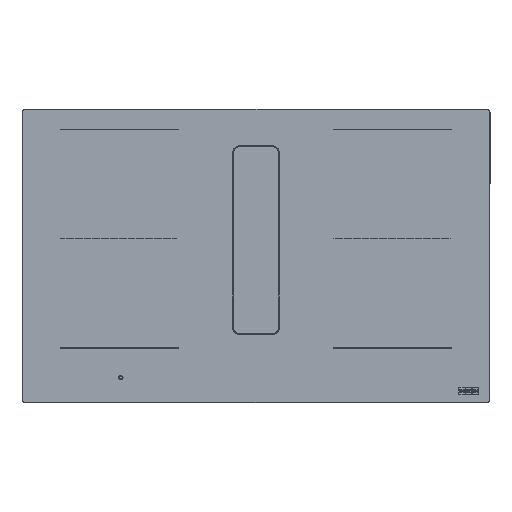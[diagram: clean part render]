
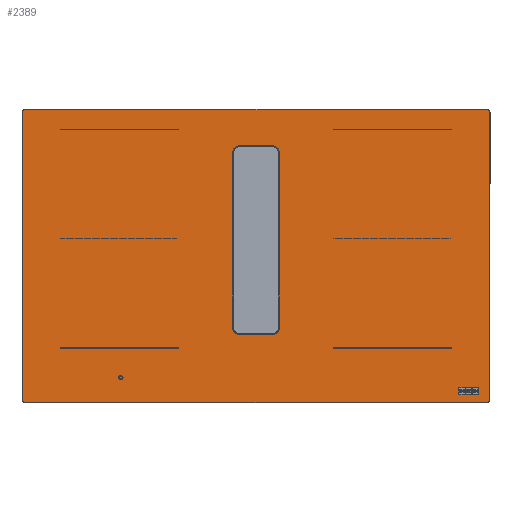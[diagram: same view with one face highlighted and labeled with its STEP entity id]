
A CAD part, top view. The second image highlights one B-rep face of the part: STEP entity #2389.
In plain terms, the highlighted planar face has unit normal (0, 0, 1) as drawn and (0, 1, 0) by its records, which use the part's own axes.
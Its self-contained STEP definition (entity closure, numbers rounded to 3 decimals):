
#2389=ADVANCED_FACE('',(#4498,#2449),#31573,.T.);
#2449=FACE_BOUND('',#6606,.T.);
#4498=FACE_OUTER_BOUND('',#6605,.T.);
#6605=EDGE_LOOP('',(#15975,#15976,#15977,#15978,#15979,#15980,#15981,#15982));
#6606=EDGE_LOOP('',(#15983,#15984,#15985,#15986,#15987,#15988,#15989,#15990));
#15975=ORIENTED_EDGE('',*,*,#20830,.T.);
#15976=ORIENTED_EDGE('',*,*,#20785,.T.);
#15977=ORIENTED_EDGE('',*,*,#20835,.T.);
#15978=ORIENTED_EDGE('',*,*,#20784,.T.);
#15979=ORIENTED_EDGE('',*,*,#20838,.T.);
#15980=ORIENTED_EDGE('',*,*,#20783,.T.);
#15981=ORIENTED_EDGE('',*,*,#20843,.T.);
#15982=ORIENTED_EDGE('',*,*,#20782,.T.);
#15983=ORIENTED_EDGE('',*,*,#20789,.T.);
#15984=ORIENTED_EDGE('',*,*,#20796,.T.);
#15985=ORIENTED_EDGE('',*,*,#20788,.T.);
#15986=ORIENTED_EDGE('',*,*,#20801,.T.);
#15987=ORIENTED_EDGE('',*,*,#20787,.T.);
#15988=ORIENTED_EDGE('',*,*,#20806,.T.);
#15989=ORIENTED_EDGE('',*,*,#20786,.T.);
#15990=ORIENTED_EDGE('',*,*,#20790,.T.);
#20782=EDGE_CURVE('',#29486,#29484,#26592,.T.);
#20783=EDGE_CURVE('',#29488,#29487,#26593,.T.);
#20784=EDGE_CURVE('',#29490,#29489,#26594,.T.);
#20785=EDGE_CURVE('',#29485,#29491,#26595,.T.);
#20786=EDGE_CURVE('',#29494,#29492,#26596,.T.);
#20787=EDGE_CURVE('',#29496,#29495,#26597,.T.);
#20788=EDGE_CURVE('',#29498,#29497,#26598,.T.);
#20789=EDGE_CURVE('',#29493,#29499,#26599,.T.);
#20790=EDGE_CURVE('',#29492,#29493,#21847,.T.);
#20796=EDGE_CURVE('',#29499,#29498,#21852,.T.);
#20801=EDGE_CURVE('',#29497,#29496,#21856,.T.);
#20806=EDGE_CURVE('',#29495,#29494,#21860,.T.);
#20830=EDGE_CURVE('',#29484,#29485,#21867,.T.);
#20835=EDGE_CURVE('',#29491,#29490,#21872,.T.);
#20838=EDGE_CURVE('',#29489,#29488,#21875,.T.);
#20843=EDGE_CURVE('',#29487,#29486,#21880,.T.);
#21847=TRIMMED_CURVE($,#22884,(#89671),(#89672),.T.,.CARTESIAN.);
#21852=TRIMMED_CURVE($,#22889,(#89688),(#89689),.T.,.CARTESIAN.);
#21856=TRIMMED_CURVE($,#22893,(#89702),(#89703),.T.,.CARTESIAN.);
#21860=TRIMMED_CURVE($,#22897,(#89716),(#89717),.T.,.CARTESIAN.);
#21867=TRIMMED_CURVE($,#22904,(#89771),(#89772),.T.,.CARTESIAN.);
#21872=TRIMMED_CURVE($,#22909,(#89786),(#89787),.T.,.CARTESIAN.);
#21875=TRIMMED_CURVE($,#22912,(#89795),(#89796),.T.,.CARTESIAN.);
#21880=TRIMMED_CURVE($,#22917,(#89810),(#89811),.T.,.CARTESIAN.);
#22884=CIRCLE('',#35226,11.628);
#22889=CIRCLE('',#35231,11.628);
#22893=CIRCLE('',#35235,11.628);
#22897=CIRCLE('',#35239,11.628);
#22904=CIRCLE('',#35246,4.372);
#22909=CIRCLE('',#35251,4.372);
#22912=CIRCLE('',#35254,4.372);
#22917=CIRCLE('',#35259,4.372);
#26592=B_SPLINE_CURVE_WITH_KNOTS('',1,(#89654,#89655),.UNSPECIFIED.,.F.,
 .F.,(2,2),(-510.,0.),.UNSPECIFIED.);
#26593=B_SPLINE_CURVE_WITH_KNOTS('',1,(#89656,#89657),.UNSPECIFIED.,.F.,
 .F.,(2,2),(-820.,0.),.UNSPECIFIED.);
#26594=B_SPLINE_CURVE_WITH_KNOTS('',1,(#89658,#89659),.UNSPECIFIED.,.F.,
 .F.,(2,2),(-510.,0.),.UNSPECIFIED.);
#26595=B_SPLINE_CURVE_WITH_KNOTS('',1,(#89660,#89661),.UNSPECIFIED.,.F.,
 .F.,(2,2),(-820.,0.),.UNSPECIFIED.);
#26596=B_SPLINE_CURVE_WITH_KNOTS('',1,(#89662,#89663),.UNSPECIFIED.,.F.,
 .F.,(2,2),(-312.,0.),.UNSPECIFIED.);
#26597=B_SPLINE_CURVE_WITH_KNOTS('',1,(#89664,#89665),.UNSPECIFIED.,.F.,
 .F.,(2,2),(-59.,0.),.UNSPECIFIED.);
#26598=B_SPLINE_CURVE_WITH_KNOTS('',1,(#89666,#89667),.UNSPECIFIED.,.F.,
 .F.,(2,2),(-312.,0.),.UNSPECIFIED.);
#26599=B_SPLINE_CURVE_WITH_KNOTS('',1,(#89668,#89669),.UNSPECIFIED.,.F.,
 .F.,(2,2),(-59.,0.),.UNSPECIFIED.);
#29484=VERTEX_POINT('',#89614);
#29485=VERTEX_POINT('',#89615);
#29486=VERTEX_POINT('',#89616);
#29487=VERTEX_POINT('',#89617);
#29488=VERTEX_POINT('',#89618);
#29489=VERTEX_POINT('',#89619);
#29490=VERTEX_POINT('',#89620);
#29491=VERTEX_POINT('',#89621);
#29492=VERTEX_POINT('',#89622);
#29493=VERTEX_POINT('',#89623);
#29494=VERTEX_POINT('',#89624);
#29495=VERTEX_POINT('',#89625);
#29496=VERTEX_POINT('',#89626);
#29497=VERTEX_POINT('',#89627);
#29498=VERTEX_POINT('',#89628);
#29499=VERTEX_POINT('',#89629);
#31573=PLANE('',#35212);
#35212=AXIS2_PLACEMENT_3D('',#89140,#38957,$);
#35226=AXIS2_PLACEMENT_3D($,#89670,#38971,#38972);
#35231=AXIS2_PLACEMENT_3D($,#89687,#38981,#38982);
#35235=AXIS2_PLACEMENT_3D($,#89701,#38989,#38990);
#35239=AXIS2_PLACEMENT_3D($,#89715,#38997,#38998);
#35246=AXIS2_PLACEMENT_3D($,#89770,#39011,#39012);
#35251=AXIS2_PLACEMENT_3D($,#89785,#39021,#39022);
#35254=AXIS2_PLACEMENT_3D($,#89794,#39027,#39028);
#35259=AXIS2_PLACEMENT_3D($,#89809,#39037,#39038);
#38957=DIRECTION('',(0.,1.,0.));
#38971=DIRECTION('',(0.,-1.,0.));
#38972=DIRECTION('',(-1.,0.,0.));
#38981=DIRECTION('',(0.,-1.,0.));
#38982=DIRECTION('',(0.,0.,-1.));
#38989=DIRECTION('',(0.,-1.,0.));
#38990=DIRECTION('',(1.,0.,0.));
#38997=DIRECTION('',(0.,-1.,0.));
#38998=DIRECTION('',(0.,0.,1.));
#39011=DIRECTION('',(0.,1.,0.));
#39012=DIRECTION('',(-1.,0.,0.));
#39021=DIRECTION('',(0.,1.,0.));
#39022=DIRECTION('',(0.,0.,1.));
#39027=DIRECTION('',(0.,1.,0.));
#39028=DIRECTION('',(1.,0.,0.));
#39037=DIRECTION('',(0.,1.,0.));
#39038=DIRECTION('',(0.,0.,-1.));
#89140=CARTESIAN_POINT('',(-497.345,0.,311.345));
#89614=CARTESIAN_POINT('',(-414.372,0.,255.));
#89615=CARTESIAN_POINT('',(-410.,0.,259.372));
#89616=CARTESIAN_POINT('',(-414.372,0.,-255.));
#89617=CARTESIAN_POINT('',(-410.,0.,-259.372));
#89618=CARTESIAN_POINT('',(410.,0.,-259.372));
#89619=CARTESIAN_POINT('',(414.372,0.,-255.));
#89620=CARTESIAN_POINT('',(414.372,0.,255.));
#89621=CARTESIAN_POINT('',(410.,0.,259.372));
#89622=CARTESIAN_POINT('',(-41.128,0.,-184.));
#89623=CARTESIAN_POINT('',(-29.5,0.,-195.628));
#89624=CARTESIAN_POINT('',(-41.128,0.,128.));
#89625=CARTESIAN_POINT('',(-29.5,0.,139.628));
#89626=CARTESIAN_POINT('',(29.5,0.,139.628));
#89627=CARTESIAN_POINT('',(41.128,0.,128.));
#89628=CARTESIAN_POINT('',(41.128,0.,-184.));
#89629=CARTESIAN_POINT('',(29.5,0.,-195.628));
#89654=CARTESIAN_POINT('',(-414.372,0.,-255.));
#89655=CARTESIAN_POINT('',(-414.372,0.,255.));
#89656=CARTESIAN_POINT('',(410.,0.,-259.372));
#89657=CARTESIAN_POINT('',(-410.,0.,-259.372));
#89658=CARTESIAN_POINT('',(414.372,0.,255.));
#89659=CARTESIAN_POINT('',(414.372,0.,-255.));
#89660=CARTESIAN_POINT('',(-410.,0.,259.372));
#89661=CARTESIAN_POINT('',(410.,0.,259.372));
#89662=CARTESIAN_POINT('',(-41.128,0.,128.));
#89663=CARTESIAN_POINT('',(-41.128,0.,-184.));
#89664=CARTESIAN_POINT('',(29.5,0.,139.628));
#89665=CARTESIAN_POINT('',(-29.5,0.,139.628));
#89666=CARTESIAN_POINT('',(41.128,0.,-184.));
#89667=CARTESIAN_POINT('',(41.128,0.,128.));
#89668=CARTESIAN_POINT('',(-29.5,0.,-195.628));
#89669=CARTESIAN_POINT('',(29.5,0.,-195.628));
#89670=CARTESIAN_POINT('',(-29.5,0.,-184.));
#89671=CARTESIAN_POINT('',(-41.128,0.,-184.));
#89672=CARTESIAN_POINT('',(-29.5,0.,-195.628));
#89687=CARTESIAN_POINT('',(29.5,0.,-184.));
#89688=CARTESIAN_POINT('',(29.5,0.,-195.628));
#89689=CARTESIAN_POINT('',(41.128,0.,-184.));
#89701=CARTESIAN_POINT('',(29.5,0.,128.));
#89702=CARTESIAN_POINT('',(41.128,0.,128.));
#89703=CARTESIAN_POINT('',(29.5,0.,139.628));
#89715=CARTESIAN_POINT('',(-29.5,0.,128.));
#89716=CARTESIAN_POINT('',(-29.5,0.,139.628));
#89717=CARTESIAN_POINT('',(-41.128,0.,128.));
#89770=CARTESIAN_POINT('',(-410.,0.,255.));
#89771=CARTESIAN_POINT('',(-414.372,0.,255.));
#89772=CARTESIAN_POINT('',(-410.,0.,259.372));
#89785=CARTESIAN_POINT('',(410.,0.,255.));
#89786=CARTESIAN_POINT('',(410.,0.,259.372));
#89787=CARTESIAN_POINT('',(414.372,0.,255.));
#89794=CARTESIAN_POINT('',(410.,0.,-255.));
#89795=CARTESIAN_POINT('',(414.372,0.,-255.));
#89796=CARTESIAN_POINT('',(410.,0.,-259.372));
#89809=CARTESIAN_POINT('',(-410.,0.,-255.));
#89810=CARTESIAN_POINT('',(-410.,0.,-259.372));
#89811=CARTESIAN_POINT('',(-414.372,0.,-255.));
